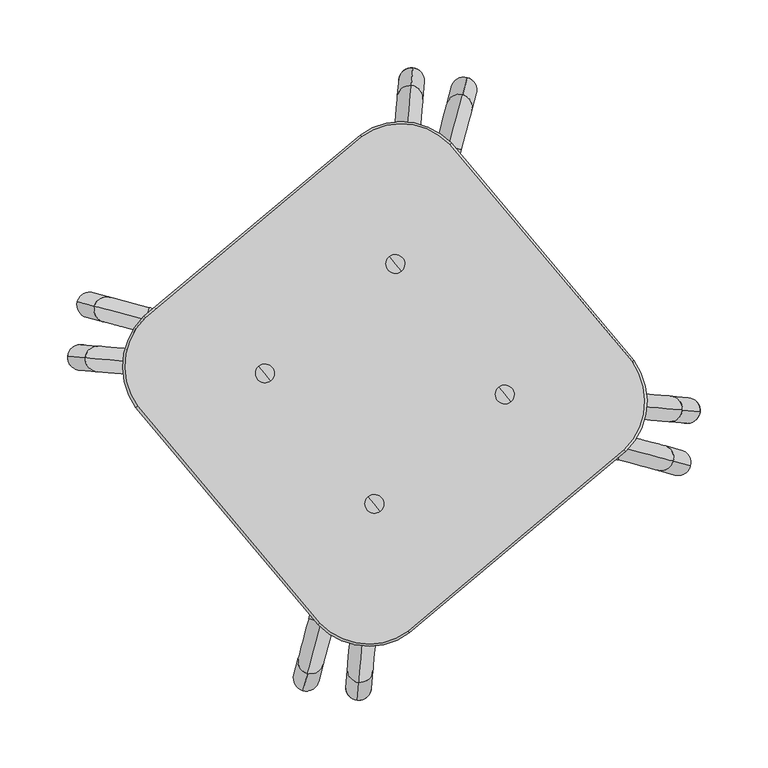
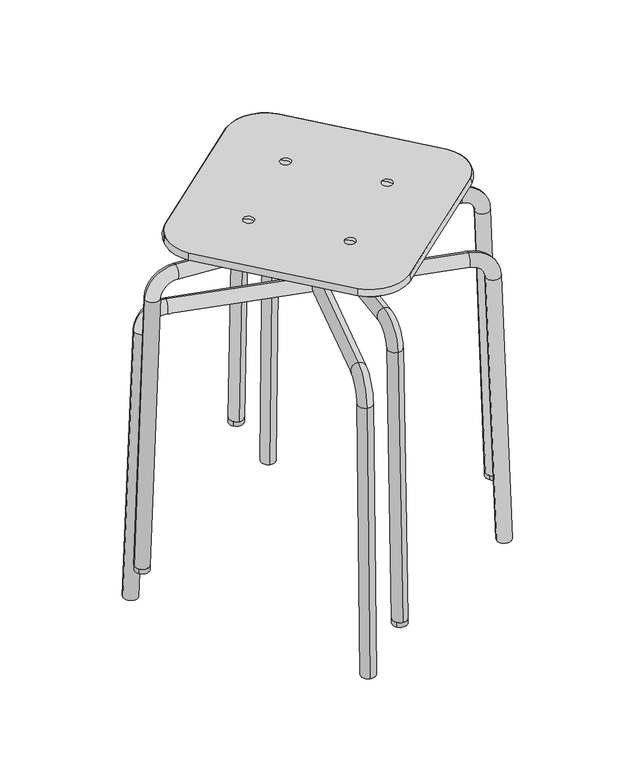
"""IFC4 building model written with IfcOpenShell, lengths in millimetres: furniture geometry, Grip NxT Stool 45 Stack : 45 Unupholstered."""

from ifc_helpers import new_model, si_unit, point, frame, frame_2d, origin, place, context, project, spatial, polyline, circle_curve, ellipse_curve, trimmed, segment, composite_curve, outline, extrude, source, transform, mapped, element, save
from ifc_brep_helpers import plane_surface, cylinder_surface, revolved_surface, advanced_brep


def furniture_99e5d853(model_context):
    return source(origin(), model_context, "Body", "SolidModel", [
        advanced_brep(
        [(232.8164369, -20.3687989, 286.7653221), (213.9002679, -18.7138486, 286.1022316), (219.7744448, -19.2277725, 661.66572), (200.8582758, -17.5728221, 661.0026295), (180.448725, -15.7872178, 699.7871899), (180.448725, -15.7872178, 680.7871899), (0.1851602, -0.0161994, 699.7871899), (0.1851602, -0.0161994, 680.7871899), (-181.8857231, 15.9129388, 699.7871899), (-181.8857231, 15.9129388, 680.7871899), (-221.2114429, 19.3534935, 661.66572), (-202.2952739, 17.6985432, 661.0026295), (-234.2517964, 20.4943766, 286.812426), (-215.3356273, 18.8394262, 286.1493355), (20.6167479, 233.5179172, 286.7653221), (18.9617976, 214.6017482, 286.1022316), (19.4757215, 220.4759251, 661.66572), (17.8207711, 201.5597561, 661.0026295), (16.0351668, 181.1502053, 699.7871899), (16.0351668, 181.1502053, 680.7871899), (-15.6649898, -181.1842428, 699.7871899), (-15.6649898, -181.1842428, 680.7871899), (-19.1055445, -220.5099626, 661.66572), (-17.4505941, -201.5937936, 661.0026295), (-20.2464276, -233.550316, 286.812426), (-18.5914772, -214.634147, 286.1493355)],
        [
            (0, 1, circle_curve(frame((223.3583524, -19.5413237, 286.4337769), z_axis=(0.034766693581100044, -0.0030416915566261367, -0.9993908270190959), x_axis=(-0.9955878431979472, 0.08710264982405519, -0.034899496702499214)), 9.5)),
            (1, 0, circle_curve(frame((223.3583524, -19.5413237, 286.4337769), z_axis=(0.034766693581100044, -0.0030416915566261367, -0.9993908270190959), x_axis=(-0.9955878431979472, 0.08710264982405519, -0.034899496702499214)), 9.5)),
            (0, 2),
            (2, 3, circle_curve(frame((210.3163603, -18.4002973, 661.3341748), z_axis=(0.034766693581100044, -0.0030416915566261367, -0.9993908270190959), x_axis=(-0.9955878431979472, 0.08710264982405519, -0.034899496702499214)), 9.5)),
            (3, 1),
            (3, 2, circle_curve(frame((210.3163603, -18.4002973, 661.3341748), z_axis=(0.034766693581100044, -0.0030416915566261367, -0.9993908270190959), x_axis=(-0.9955878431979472, 0.08710264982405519, -0.034899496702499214)), 9.5)),
            (2, 4, circle_curve(frame((180.448725, -15.7872178, 660.2871899), z_axis=(-0.08715574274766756, -0.9961946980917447, 0.0), x_axis=(0.9955878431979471, -0.08710264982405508, 0.03489949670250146)), 39.5)),
            (4, 5, circle_curve(frame((180.448725, -15.7872178, 690.2871899), z_axis=(0.9961946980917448, -0.08715574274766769, 0.0), x_axis=(0.0, 0.0, -1.0)), 9.5)),
            (5, 3, circle_curve(frame((180.448725, -15.7872178, 660.2871899), z_axis=(0.08715574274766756, 0.9961946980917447, 0.0), x_axis=(0.9955878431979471, -0.08710264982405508, 0.03489949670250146)), 20.5)),
            (5, 4, circle_curve(frame((180.448725, -15.7872178, 690.2871899), z_axis=(0.9961946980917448, -0.08715574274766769, 0.0), x_axis=(0.0, 0.0, -1.0)), 9.5)),
            (4, 6),
            (6, 7, ellipse_curve(frame((0.1851602, -0.0161994, 690.2871899), z_axis=(0.7660444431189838, 0.6427876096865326, 0.0), x_axis=(0.6427876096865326, -0.7660444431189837, 0.0)), 13.4350288, 9.5)),
            (7, 5),
            (8, 9, circle_curve(frame((-181.8857231, 15.9129388, 690.2871899), z_axis=(0.9961946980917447, -0.08715574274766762, 0.0), x_axis=(0.0, 0.0, -1.0)), 9.5)),
            (9, 7),
            (7, 6, ellipse_curve(frame((0.1851602, -0.0161994, 690.2871899), z_axis=(-0.6427876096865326, 0.7660444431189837, 0.0), x_axis=(0.7660444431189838, 0.6427876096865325, 0.0)), 13.4350288, 9.5)),
            (6, 8),
            (7, 6, ellipse_curve(frame((0.1851602, -0.0161994, 690.2871899), z_axis=(0.6427876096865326, -0.7660444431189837, 0.0), x_axis=(0.7660444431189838, 0.6427876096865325, 0.0)), 13.4350288, 9.5)),
            (9, 8, circle_curve(frame((-181.8857231, 15.9129388, 690.2871899), z_axis=(0.9961946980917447, -0.08715574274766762, 0.0), x_axis=(0.0, 0.0, -1.0)), 9.5)),
            (6, 7, ellipse_curve(frame((0.1851602, -0.0161994, 690.2871899), z_axis=(-0.7660444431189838, -0.6427876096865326, 0.0), x_axis=(0.6427876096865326, -0.7660444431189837, 0.0)), 13.4350288, 9.5)),
            (8, 10, circle_curve(frame((-181.8857231, 15.9129388, 660.2871899), z_axis=(-0.08715574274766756, -0.9961946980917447, 0.0), x_axis=(0.0, 0.0, 1.0)), 39.5)),
            (10, 11, circle_curve(frame((-211.7533584, 18.5260183, 661.3341748), z_axis=(0.034766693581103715, -0.003041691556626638, 0.9993908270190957), x_axis=(0.9955878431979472, -0.08710264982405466, -0.03489949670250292)), 9.5)),
            (11, 9, circle_curve(frame((-181.8857231, 15.9129388, 660.2871899), z_axis=(0.08715574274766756, 0.9961946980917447, 0.0), x_axis=(0.0, 0.0, 1.0)), 20.5)),
            (11, 10, circle_curve(frame((-211.7533584, 18.5260183, 661.3341748), z_axis=(0.03476669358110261, -0.0030416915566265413, 0.9993908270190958), x_axis=(0.9955878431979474, -0.08710264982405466, -0.03489949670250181)), 9.5)),
            (12, 13, circle_curve(frame((-224.7937118, 19.6669014, 286.4808807), z_axis=(-0.03476669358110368, 0.003041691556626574, -0.9993908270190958), x_axis=(0.9955878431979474, -0.08710264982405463, -0.03489949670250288)), 9.5)),
            (13, 12, circle_curve(frame((-224.7937118, 19.6669014, 286.4808807), z_axis=(-0.03476669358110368, 0.003041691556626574, -0.9993908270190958), x_axis=(0.9955878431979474, -0.08710264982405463, -0.03489949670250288)), 9.5)),
            (10, 12),
            (13, 11),
            (14, 15, circle_curve(frame((19.7892728, 224.0598327, 286.4337769), z_axis=(0.0030416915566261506, 0.03476669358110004, -0.9993908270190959), x_axis=(-0.0871026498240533, -0.9955878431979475, -0.03489949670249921)), 9.5)),
            (15, 14, circle_curve(frame((19.7892728, 224.0598327, 286.4337769), z_axis=(0.0030416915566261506, 0.03476669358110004, -0.9993908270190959), x_axis=(-0.0871026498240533, -0.9955878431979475, -0.03489949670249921)), 9.5)),
            (14, 16),
            (16, 17, circle_curve(frame((18.6482463, 211.0178406, 661.3341748), z_axis=(0.0030416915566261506, 0.03476669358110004, -0.9993908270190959), x_axis=(-0.0871026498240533, -0.9955878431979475, -0.03489949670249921)), 9.5)),
            (17, 15),
            (17, 16, circle_curve(frame((18.6482463, 211.0178406, 661.3341748), z_axis=(0.0030416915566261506, 0.03476669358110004, -0.9993908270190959), x_axis=(-0.0871026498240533, -0.9955878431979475, -0.03489949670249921)), 9.5)),
            (16, 18, circle_curve(frame((16.0351668, 181.1502053, 660.2871899), z_axis=(0.9961946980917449, -0.08715574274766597, 0.0), x_axis=(0.08710264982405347, 0.9955878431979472, 0.03489949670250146)), 39.5)),
            (18, 19, circle_curve(frame((16.0351668, 181.1502053, 690.2871899), z_axis=(0.0871557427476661, 0.9961946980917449, 0.0), x_axis=(0.0, 0.0, -1.0)), 9.5)),
            (19, 17, circle_curve(frame((16.0351668, 181.1502053, 660.2871899), z_axis=(-0.9961946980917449, 0.08715574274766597, 0.0), x_axis=(0.08710264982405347, 0.9955878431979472, 0.03489949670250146)), 20.5)),
            (19, 18, circle_curve(frame((16.0351668, 181.1502053, 690.2871899), z_axis=(0.0871557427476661, 0.9961946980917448, 0.0), x_axis=(0.0, 0.0, -1.0)), 9.5)),
            (18, 6),
            (7, 19),
            (20, 21, circle_curve(frame((-15.6649898, -181.1842428, 690.2871899), z_axis=(0.08715574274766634, 0.9961946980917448, 0.0), x_axis=(0.0, 0.0, -1.0)), 9.5)),
            (21, 7),
            (6, 20),
            (21, 20, circle_curve(frame((-15.6649898, -181.1842428, 690.2871899), z_axis=(0.08715574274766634, 0.9961946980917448, 0.0), x_axis=(0.0, 0.0, -1.0)), 9.5)),
            (20, 22, circle_curve(frame((-15.6649898, -181.1842428, 660.2871899), z_axis=(0.9961946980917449, -0.08715574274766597, 0.0), x_axis=(0.0, 0.0, 1.0)), 39.5)),
            (22, 23, circle_curve(frame((-18.2780693, -211.0518781, 661.3341748), z_axis=(0.0030416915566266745, 0.034766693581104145, 0.9993908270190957), x_axis=(0.08710264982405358, 0.9955878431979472, -0.03489949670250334)), 9.5)),
            (23, 21, circle_curve(frame((-15.6649898, -181.1842428, 660.2871899), z_axis=(-0.9961946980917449, 0.08715574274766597, 0.0), x_axis=(0.0, 0.0, 1.0)), 20.5)),
            (23, 22, circle_curve(frame((-18.2780693, -211.0518781, 661.3341748), z_axis=(0.003041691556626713, 0.03476669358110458, 0.9993908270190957), x_axis=(0.08710264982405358, 0.9955878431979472, -0.034899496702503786)), 9.5)),
            (24, 25, circle_curve(frame((-19.4189524, -224.0922315, 286.4808807), z_axis=(-0.0030416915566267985, -0.03476669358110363, -0.9993908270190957), x_axis=(0.08710264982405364, 0.9955878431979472, -0.03489949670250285)), 9.5)),
            (25, 24, circle_curve(frame((-19.4189524, -224.0922315, 286.4808807), z_axis=(-0.0030416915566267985, -0.03476669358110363, -0.9993908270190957), x_axis=(0.08710264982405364, 0.9955878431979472, -0.03489949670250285)), 9.5)),
            (22, 24),
            (25, 23),
        ],
        [
            plane_surface(frame((223.3583524, -19.5413237, 286.4337769), z_axis=(0.034766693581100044, -0.0030416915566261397, -0.999390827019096), x_axis=(-0.0871557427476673, -0.9961946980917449, 0.0))),
            cylinder_surface(frame((223.3583524, -19.5413237, 286.4337769), z_axis=(0.034766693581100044, -0.0030416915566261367, -0.9993908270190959), x_axis=(-0.9955878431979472, 0.08710264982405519, -0.034899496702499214)), 9.5),
            revolved_surface(trimmed(ellipse_curve(frame((210.3163603, -18.4002973, 661.3341748), z_axis=(0.03476669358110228, -0.0030416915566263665, -0.9993908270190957), x_axis=(-0.9955878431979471, 0.08710264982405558, -0.03489949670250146)), 9.5, 9.5), [point((219.7744448, -19.2277725, 661.66572))], [point((200.8582758, -17.5728221, 661.0026295))], True, "CARTESIAN"), (180.448725, -15.7872178, 660.2871899), (-0.08715574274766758, -0.9961946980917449, 0.0)),
            revolved_surface(trimmed(ellipse_curve(frame((210.3163603, -18.4002973, 661.3341748), z_axis=(0.03476669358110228, -0.0030416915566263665, -0.9993908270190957), x_axis=(-0.9955878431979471, 0.08710264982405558, -0.03489949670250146)), 9.5, 9.5), [point((200.8582758, -17.5728221, 661.0026295))], [point((219.7744448, -19.2277725, 661.66572))], True, "CARTESIAN"), (180.448725, -15.7872178, 660.2871899), (-0.08715574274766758, -0.9961946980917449, 0.0)),
            cylinder_surface(frame((180.448725, -15.7872178, 690.2871899), z_axis=(0.9961946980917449, -0.08715574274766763, 0.0), x_axis=(0.0, 0.0, -1.0)), 9.5),
            revolved_surface(trimmed(ellipse_curve(frame((-181.8857231, 15.9129388, 690.2871899), z_axis=(0.9961946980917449, -0.0871557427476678, 0.0), x_axis=(0.0, 0.0, -1.0)), 9.5, 9.5), [point((-181.8857231, 15.9129388, 699.7871899))], [point((-181.8857231, 15.9129388, 680.7871899))], True, "CARTESIAN"), (-181.8857231, 15.9129388, 660.2871899), (-0.08715574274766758, -0.9961946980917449, 0.0)),
            revolved_surface(trimmed(ellipse_curve(frame((-181.8857231, 15.9129388, 690.2871899), z_axis=(0.9961946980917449, -0.0871557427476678, 0.0), x_axis=(0.0, 0.0, -1.0)), 9.5, 9.5), [point((-181.8857231, 15.9129388, 680.7871899))], [point((-181.8857231, 15.9129388, 699.7871899))], True, "CARTESIAN"), (-181.8857231, 15.9129388, 660.2871899), (-0.08715574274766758, -0.9961946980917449, 0.0)),
            plane_surface(frame((-224.7937118, 19.6669014, 286.4808807), z_axis=(-0.0347666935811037, 0.003041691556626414, -0.9993908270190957), x_axis=(-0.08715574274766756, -0.9961946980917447, 0.0))),
            cylinder_surface(frame((-211.7533584, 18.5260183, 661.3341748), z_axis=(0.03476669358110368, -0.003041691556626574, 0.9993908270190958), x_axis=(0.9955878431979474, -0.08710264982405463, -0.03489949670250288)), 9.5),
            plane_surface(frame((19.7892728, 224.0598327, 286.4337769), z_axis=(0.003041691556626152, 0.03476669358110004, -0.999390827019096), x_axis=(0.996194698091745, -0.08715574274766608, 0.0))),
            cylinder_surface(frame((19.7892728, 224.0598327, 286.4337769), z_axis=(0.0030416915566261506, 0.03476669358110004, -0.9993908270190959), x_axis=(-0.0871026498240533, -0.9955878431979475, -0.03489949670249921)), 9.5),
            revolved_surface(trimmed(ellipse_curve(frame((18.6482463, 211.0178406, 661.3341748), z_axis=(0.0030416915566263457, 0.03476669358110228, -0.9993908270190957), x_axis=(-0.0871026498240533, -0.9955878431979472, -0.034899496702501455)), 9.5, 9.5), [point((19.4757215, 220.4759251, 661.66572))], [point((17.8207711, 201.5597561, 661.0026295))], True, "CARTESIAN"), (16.0351668, 181.1502053, 660.2871899), (0.9961946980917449, -0.08715574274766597, 0.0)),
            revolved_surface(trimmed(ellipse_curve(frame((18.6482463, 211.0178406, 661.3341748), z_axis=(0.0030416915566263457, 0.03476669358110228, -0.9993908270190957), x_axis=(-0.0871026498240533, -0.9955878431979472, -0.034899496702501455)), 9.5, 9.5), [point((17.8207711, 201.5597561, 661.0026295))], [point((19.4757215, 220.4759251, 661.66572))], True, "CARTESIAN"), (16.0351668, 181.1502053, 660.2871899), (0.9961946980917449, -0.08715574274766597, 0.0)),
            cylinder_surface(frame((16.0351668, 181.1502053, 690.2871899), z_axis=(0.08715574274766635, 0.996194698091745, 0.0), x_axis=(0.0, 0.0, -1.0)), 9.5),
            revolved_surface(trimmed(ellipse_curve(frame((-15.6649898, -181.1842428, 690.2871899), z_axis=(0.08715574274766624, 0.9961946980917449, 0.0), x_axis=(0.0, 0.0, -1.0)), 9.5, 9.5), [point((-15.6649898, -181.1842428, 699.7871899))], [point((-15.6649898, -181.1842428, 680.7871899))], True, "CARTESIAN"), (-15.6649898, -181.1842428, 660.2871899), (0.9961946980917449, -0.08715574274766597, 0.0)),
            revolved_surface(trimmed(ellipse_curve(frame((-15.6649898, -181.1842428, 690.2871899), z_axis=(0.08715574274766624, 0.9961946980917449, 0.0), x_axis=(0.0, 0.0, -1.0)), 9.5, 9.5), [point((-15.6649898, -181.1842428, 680.7871899))], [point((-15.6649898, -181.1842428, 699.7871899))], True, "CARTESIAN"), (-15.6649898, -181.1842428, 660.2871899), (0.9961946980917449, -0.08715574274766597, 0.0)),
            plane_surface(frame((-19.4189524, -224.0922315, 286.4808807), z_axis=(-0.003041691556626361, -0.034766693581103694, -0.9993908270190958), x_axis=(0.996194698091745, -0.08715574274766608, 0.0))),
            cylinder_surface(frame((-18.2780693, -211.0518781, 661.3341748), z_axis=(0.0030416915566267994, 0.03476669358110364, 0.9993908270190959), x_axis=(0.08710264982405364, 0.9955878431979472, -0.03489949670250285)), 9.5),
        ],
        [
            (0, [[1, 2]]),
            (1, [[-1, 3, 4, 5]]),
            (1, [[-2, -5, 6, -3]]),
            (2, [[-4, 7, 8, 9]]),
            (3, [[-6, -9, 10, -7]]),
            (4, [[-8, 11, 12, 13]]),
            (4, [[14, 15, 16, 17]]),
            (4, [[-10, -13, 18, -11]]),
            (4, [[19, -17, 20, -15]]),
            (5, [[-14, 21, 22, 23]]),
            (6, [[-19, -23, 24, -21]]),
            (7, [[25, 26]]),
            (8, [[-22, 27, -26, 28]]),
            (8, [[-24, -28, -25, -27]]),
            (9, [[29, 30]]),
            (10, [[-29, 31, 32, 33]]),
            (10, [[-30, -33, 34, -31]]),
            (11, [[-32, 35, 36, 37]]),
            (12, [[-34, -37, 38, -35]]),
            (13, [[-36, 39, -18, 40]]),
            (13, [[41, 42, -12, 43]]),
            (13, [[-38, -40, -20, -39]]),
            (13, [[44, -43, -16, -42]]),
            (14, [[-41, 45, 46, 47]]),
            (15, [[-44, -47, 48, -45]]),
            (16, [[49, 50]]),
            (17, [[-46, 51, -50, 52]]),
            (17, [[-48, -52, -49, -51]]),
        ],
    ),
        extrude(outline(composite_curve([segment(trimmed(circle_curve(frame_2d((-7.6459239, -88.654369)), 9.0), [point((-14.5403239, -94.4394575))], [point((-0.7515239, -82.8692806))], False, "CARTESIAN"), True, "CONTINUOUS"), segment(trimmed(circle_curve(frame_2d((-7.6459239, -88.654369)), 9.0), [point((-0.7515239, -82.8692806))], [point((-14.5403239, -94.4394575))], False, "CARTESIAN"), True, "CONTINUOUS")], self_intersect=False)), frame((0.0, 0.0, 668.5318909), z_axis=(0.0, 0.0, 1.0), x_axis=(1.0, 0.0, 0.0)), (0.0, 0.0, 1.0), 56.7956238),
        extrude(outline(composite_curve([segment(trimmed(circle_curve(frame_2d((-88.6049039, 7.7380332)), 9.0), [point((-95.4993039, 1.9529447))], [point((-81.7105039, 13.5231216))], False, "CARTESIAN"), True, "CONTINUOUS"), segment(trimmed(circle_curve(frame_2d((-88.6049039, 7.7380332)), 9.0), [point((-81.7105039, 13.5231216))], [point((-95.4993039, 1.9529447))], False, "CARTESIAN"), True, "CONTINUOUS")], self_intersect=False)), frame((0.0, 0.0, 668.5318909), z_axis=(0.0, 0.0, 1.0), x_axis=(1.0, 0.0, 0.0)), (0.0, 0.0, 1.0), 56.7956238),
        extrude(outline(composite_curve([segment(trimmed(circle_curve(frame_2d((8.0070063, 88.4978532)), 9.0), [point((14.9014063, 94.2829417))], [point((1.1126063, 82.7127647))], False, "CARTESIAN"), True, "CONTINUOUS"), segment(trimmed(circle_curve(frame_2d((8.0070063, 88.4978532)), 9.0), [point((1.1126063, 82.7127647))], [point((14.9014063, 94.2829417))], False, "CARTESIAN"), True, "CONTINUOUS")], self_intersect=False)), frame((0.0, 0.0, 668.5318909), z_axis=(0.0, 0.0, 1.0), x_axis=(1.0, 0.0, 0.0)), (0.0, 0.0, 1.0), 56.7956238),
        extrude(outline(composite_curve([segment(trimmed(circle_curve(frame_2d((88.6352107, -7.8649045)), 9.0), [point((95.5296107, -2.079816))], [point((81.7408107, -13.649993))], False, "CARTESIAN"), True, "CONTINUOUS"), segment(trimmed(circle_curve(frame_2d((88.6352107, -7.8649045)), 9.0), [point((81.7408107, -13.649993))], [point((95.5296107, -2.079816))], False, "CARTESIAN"), True, "CONTINUOUS")], self_intersect=False)), frame((0.0, 0.0, 668.5318909), z_axis=(0.0, 0.0, 1.0), x_axis=(1.0, 0.0, 0.0)), (0.0, 0.0, 1.0), 56.7956238),
        extrude(outline(composite_curve([segment(trimmed(circle_curve(frame_2d((-19.4128109, -224.0804734)), 9.5), [point((-26.6902331, -230.1869557))], [point((-12.1353887, -217.9739911))], False, "CARTESIAN"), True, "CONTINUOUS"), segment(trimmed(circle_curve(frame_2d((-19.4128109, -224.0804734)), 9.5), [point((-12.1353887, -217.9739911))], [point((-26.6902331, -230.1869557))], False, "CARTESIAN"), True, "CONTINUOUS")], self_intersect=False)), frame((0.0, 0.0, 280.0), z_axis=(0.0, 0.0, 1.0), x_axis=(1.0, 0.0, 0.0)), (0.0, 0.0, 1.0), 7.0),
        extrude(outline(composite_curve([segment(trimmed(circle_curve(frame_2d((-224.7029994, 19.6653957)), 9.5), [point((-231.9804217, 13.5589134))], [point((-217.4255772, 25.771878))], False, "CARTESIAN"), True, "CONTINUOUS"), segment(trimmed(circle_curve(frame_2d((-224.7029994, 19.6653957)), 9.5), [point((-217.4255772, 25.771878))], [point((-231.9804217, 13.5589134))], False, "CARTESIAN"), True, "CONTINUOUS")], self_intersect=False)), frame((0.0, 0.0, 280.0), z_axis=(0.0, 0.0, 1.0), x_axis=(1.0, 0.0, 0.0)), (0.0, 0.0, 1.0), 7.0),
        extrude(outline(composite_curve([segment(trimmed(circle_curve(frame_2d((19.7589199, 224.1019649)), 9.5325021), [point((12.4565996, 217.9745906))], [point((27.0612402, 230.2293392))], False, "CARTESIAN"), True, "CONTINUOUS"), segment(trimmed(circle_curve(frame_2d((19.7589199, 224.1019649)), 9.5325021), [point((27.0612402, 230.2293392))], [point((12.4565996, 217.9745906))], False, "CARTESIAN"), True, "CONTINUOUS")], self_intersect=False)), frame((0.0, 0.0, 280.0), z_axis=(0.0, 0.0, 1.0), x_axis=(1.0, 0.0, 0.0)), (0.0, 0.0, 1.0), 7.0),
        extrude(outline(composite_curve([segment(trimmed(circle_curve(frame_2d((223.3743219, -19.5515336)), 9.5), [point((216.0968997, -25.6580159))], [point((230.6517442, -13.4450513))], False, "CARTESIAN"), True, "CONTINUOUS"), segment(trimmed(circle_curve(frame_2d((223.3743219, -19.5515336)), 9.5), [point((230.6517442, -13.4450513))], [point((216.0968997, -25.6580159))], False, "CARTESIAN"), True, "CONTINUOUS")], self_intersect=False)), frame((0.0, 0.0, 280.0), z_axis=(0.0, 0.0, 1.0), x_axis=(1.0, 0.0, 0.0)), (0.0, 0.0, 1.0), 7.0),
        advanced_brep(
        [(12.1933616, 83.268511, 735.3895874), (3.2627666, 93.9115796, 735.3895874), (7.7280641, 88.5900453, 735.3895874), (7.7280641, 88.5900453, 736.5699158)],
        [
            (0, 1, circle_curve(frame((7.7280641, 88.5900453, 735.3895874), z_axis=(0.0, 0.0, -1.0), x_axis=(-0.6427876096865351, 0.7660444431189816, 0.0)), 6.9467697)),
            (1, 2),
            (2, 0),
            (1, 0, circle_curve(frame((7.7280641, 88.5900453, 735.3895874), z_axis=(0.0, 0.0, -1.0), x_axis=(-0.6427876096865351, 0.7660444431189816, 0.0)), 6.9467697)),
            (3, 1, circle_curve(frame((7.5821185, 88.7639765, 716.8735995), z_axis=(-0.7660444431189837, -0.6427876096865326, 0.0), x_axis=(-0.6427876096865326, 0.7660444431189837, 0.0)), 19.6976249)),
            (0, 3, circle_curve(frame((7.8740097, 88.4161141, 716.8735995), z_axis=(-0.7660444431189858, -0.6427876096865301, 0.0), x_axis=(0.6427876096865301, -0.7660444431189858, 0.0)), 19.6976249)),
        ],
        [
            plane_surface(frame((7.7280641, 88.5900453, 735.3895874), z_axis=(0.0, 0.0, -1.0), x_axis=(-0.6427876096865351, 0.7660444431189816, 0.0))),
            revolved_surface(trimmed(ellipse_curve(frame((7.5821185, 88.7639765, 716.8735995), z_axis=(0.7660444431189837, 0.6427876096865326, 0.0), x_axis=(-0.6427876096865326, 0.7660444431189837, 0.0)), 19.6976249, 19.6976249), [point((3.2627666, 93.9115796, 735.3895874))], [point((7.7280641, 88.5900453, 736.5699158))], True, "CARTESIAN"), (7.7280641, 88.5900453, 736.2266692), (0.0, 0.0, 1.0)),
        ],
        [
            (0, [[1, 2, 3]]),
            (0, [[4, -3, -2]]),
            (1, [[5, -1, 6]]),
            (1, [[-6, -4, -5]]),
        ],
    ),
        advanced_brep(
        [(88.5861277, -7.7728425, 735.3895874), (93.0514252, -13.0943768, 735.3895874), (84.1208302, -2.4513082, 735.3895874), (88.5861277, -7.7728425, 736.5699158)],
        [
            (0, 1),
            (1, 2, circle_curve(frame((88.5861277, -7.7728425, 735.3895874), z_axis=(0.0, 0.0, -1.0), x_axis=(0.6427876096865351, -0.7660444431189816, 0.0)), 6.9467697)),
            (2, 0),
            (2, 1, circle_curve(frame((88.5861277, -7.7728425, 735.3895874), z_axis=(0.0, 0.0, -1.0), x_axis=(0.6427876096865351, -0.7660444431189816, 0.0)), 6.9467697)),
            (1, 3, circle_curve(frame((88.7320733, -7.9467737, 716.8735995), z_axis=(-0.7660444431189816, -0.6427876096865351, 0.0), x_axis=(0.6427876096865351, -0.7660444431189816, 0.0)), 19.6976249)),
            (3, 2, circle_curve(frame((88.4401821, -7.5989113, 716.8735995), z_axis=(-0.7660444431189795, -0.6427876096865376, 0.0), x_axis=(-0.6427876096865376, 0.7660444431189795, 0.0)), 19.6976249)),
        ],
        [
            plane_surface(frame((88.5861277, -7.7728425, 735.3895874), z_axis=(0.0, 0.0, -1.0), x_axis=(0.6427876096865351, -0.7660444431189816, 0.0))),
            revolved_surface(trimmed(ellipse_curve(frame((88.7320733, -7.9467737, 716.8735995), z_axis=(0.7660444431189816, 0.6427876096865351, 0.0), x_axis=(0.6427876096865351, -0.7660444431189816, 0.0)), 19.6976249, 19.6976249), [point((88.5861277, -7.7728425, 736.5699158))], [point((93.0514252, -13.0943768, 735.3895874))], True, "CARTESIAN"), (88.5861277, -7.7728425, 736.2266692), (0.0, 0.0, -1.0)),
        ],
        [
            (0, [[1, 2, 3]]),
            (0, [[-3, 4, -1]]),
            (1, [[-2, 5, 6]]),
            (1, [[-4, -6, -5]]),
        ],
    ),
        advanced_brep(
        [(-88.5861277, 7.7728425, 735.3895874), (-93.0514252, 13.0943768, 735.3895874), (-84.1208302, 2.4513082, 735.3895874), (-88.5861277, 7.7728425, 736.5699158)],
        [
            (0, 1),
            (1, 2, circle_curve(frame((-88.5861277, 7.7728425, 735.3895874), z_axis=(0.0, 0.0, -1.0), x_axis=(-0.6427876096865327, 0.7660444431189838, 0.0)), 6.9467697)),
            (2, 0),
            (2, 1, circle_curve(frame((-88.5861277, 7.7728425, 735.3895874), z_axis=(0.0, 0.0, -1.0), x_axis=(-0.6427876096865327, 0.7660444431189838, 0.0)), 6.9467697)),
            (1, 3, circle_curve(frame((-88.7320733, 7.9467737, 716.8735995), z_axis=(0.7660444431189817, 0.6427876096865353, 0.0), x_axis=(-0.6427876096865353, 0.7660444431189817, 0.0)), 19.6976249)),
            (3, 2, circle_curve(frame((-88.4401821, 7.5989113, 716.8735995), z_axis=(0.7660444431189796, 0.6427876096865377, 0.0), x_axis=(0.6427876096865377, -0.7660444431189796, 0.0)), 19.6976249)),
        ],
        [
            plane_surface(frame((-88.5861277, 7.7728425, 735.3895874), z_axis=(0.0, 0.0, -0.9999999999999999), x_axis=(-0.6427876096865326, 0.7660444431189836, 0.0))),
            revolved_surface(trimmed(ellipse_curve(frame((-88.7320733, 7.9467737, 716.8735995), z_axis=(-0.7660444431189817, -0.6427876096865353, 0.0), x_axis=(-0.6427876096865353, 0.7660444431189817, 0.0)), 19.6976249, 19.6976249), [point((-88.5861277, 7.7728425, 736.5699158))], [point((-93.0514252, 13.0943768, 735.3895874))], True, "CARTESIAN"), (-88.5861277, 7.7728425, 736.2266692), (0.0, 0.0, -1.0)),
        ],
        [
            (0, [[1, 2, 3]]),
            (0, [[-3, 4, -1]]),
            (1, [[-2, 5, 6]]),
            (1, [[-4, -6, -5]]),
        ],
    ),
        advanced_brep(
        [(-12.1933616, -83.268511, 735.3895874), (-3.2627666, -93.9115796, 735.3895874), (-7.7280641, -88.5900453, 735.3895874), (-7.7280641, -88.5900453, 736.5699158)],
        [
            (0, 1, circle_curve(frame((-7.7280641, -88.5900453, 735.3895874), z_axis=(0.0, 0.0, -1.0), x_axis=(0.6427876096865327, -0.7660444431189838, 0.0)), 6.9467697)),
            (1, 2),
            (2, 0),
            (1, 0, circle_curve(frame((-7.7280641, -88.5900453, 735.3895874), z_axis=(0.0, 0.0, -1.0), x_axis=(0.6427876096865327, -0.7660444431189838, 0.0)), 6.9467697)),
            (3, 1, circle_curve(frame((-7.5821185, -88.7639765, 716.8735995), z_axis=(0.7660444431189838, 0.6427876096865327, 0.0), x_axis=(0.6427876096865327, -0.7660444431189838, 0.0)), 19.6976249)),
            (0, 3, circle_curve(frame((-7.8740097, -88.4161141, 716.8735995), z_axis=(0.7660444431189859, 0.6427876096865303, 0.0), x_axis=(-0.6427876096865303, 0.7660444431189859, 0.0)), 19.6976249)),
        ],
        [
            plane_surface(frame((-7.7280641, -88.5900453, 735.3895874), z_axis=(0.0, 0.0, -0.9999999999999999), x_axis=(0.6427876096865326, -0.7660444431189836, 0.0))),
            revolved_surface(trimmed(ellipse_curve(frame((-7.5821185, -88.7639765, 716.8735995), z_axis=(-0.7660444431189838, -0.6427876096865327, 0.0), x_axis=(0.6427876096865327, -0.7660444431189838, 0.0)), 19.6976249, 19.6976249), [point((-3.2627666, -93.9115796, 735.3895874))], [point((-7.7280641, -88.5900453, 736.5699158))], True, "CARTESIAN"), (-7.7280641, -88.5900453, 736.2266692), (0.0, 0.0, 1.0)),
        ],
        [
            (0, [[1, 2, 3]]),
            (0, [[4, -3, -2]]),
            (1, [[5, -1, 6]]),
            (1, [[-6, -4, -5]]),
        ],
    ),
        advanced_brep(
        [(-48.0521148, -176.9240812, 735.4041136), (17.3176253, -182.6318131, 735.4041136), (17.3176253, -182.6318131, 725.4041138), (-48.0521148, -176.9240812, 725.4041138), (-182.580369, -16.5995509, 735.4041136), (-182.580369, -16.5995509, 725.4041138), (-176.8500514, 48.7682132, 735.4041136), (-176.8500514, 48.7682132, 725.4041138), (-17.3176253, 182.6318131, 735.4041136), (-17.3176253, 182.6318131, 725.4041138), (48.0521148, 176.9240812, 735.4041136), (48.0521148, 176.9240812, 725.4041138), (182.580369, 16.5995509, 735.4041136), (182.580369, 16.5995509, 725.4041138), (176.8500514, -48.7682132, 735.4041136), (176.8500514, -48.7682132, 725.4041138)],
        [
            (0, 1, circle_curve(frame((-12.0853498, -142.1909296, 735.4041136), z_axis=(0.0, 0.0, 1.0), x_axis=(0.5880595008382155, -0.8088176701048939, 0.0)), 50.0)),
            (1, 2),
            (2, 3, circle_curve(frame((-12.0853498, -142.1909296, 725.4041138), z_axis=(0.0, 0.0, -1.0), x_axis=(0.5880595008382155, -0.8088176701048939, 0.0)), 50.0)),
            (3, 0),
            (4, 0, circle_curve(frame((1030.9508348, 865.0704653, 735.4041136), z_axis=(0.0, 0.0, 1.0), x_axis=(-0.7193352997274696, -0.6946630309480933, 0.0)), 1500.0)),
            (3, 5, circle_curve(frame((1030.9508348, 865.0704653, 725.4041138), z_axis=(0.0, 0.0, -1.0), x_axis=(-0.7193352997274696, -0.6946630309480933, 0.0)), 1500.0)),
            (5, 4),
            (6, 4, circle_curve(frame((-142.1293288, 12.7894497, 735.4041136), z_axis=(0.0, 0.0, 1.0), x_axis=(-0.8090208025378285, -0.5877800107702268, 0.0)), 50.0)),
            (5, 7, circle_curve(frame((-142.1293288, 12.7894497, 725.4041138), z_axis=(0.0, 0.0, -1.0), x_axis=(-0.8090208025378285, -0.5877800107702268, 0.0)), 50.0)),
            (7, 6),
            (8, 6, circle_curve(frame((864.771626, -1030.594692, 735.4041136), z_axis=(0.0, 0.0, 1.0), x_axis=(-0.6944144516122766, 0.7195752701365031, 0.0)), 1500.0)),
            (7, 9, circle_curve(frame((864.771626, -1030.594692, 725.4041138), z_axis=(0.0, 0.0, -1.0), x_axis=(-0.6944144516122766, 0.7195752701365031, 0.0)), 1500.0)),
            (9, 8),
            (10, 8, circle_curve(frame((12.0853498, 142.1909296, 735.4041136), z_axis=(0.0, 0.0, 1.0), x_axis=(-0.5880595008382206, 0.8088176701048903, 0.0)), 50.0)),
            (9, 11, circle_curve(frame((12.0853498, 142.1909296, 725.4041138), z_axis=(0.0, 0.0, -1.0), x_axis=(-0.5880595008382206, 0.8088176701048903, 0.0)), 50.0)),
            (11, 10),
            (12, 10, circle_curve(frame((-1030.9508348, -865.0704653, 735.4041136), z_axis=(0.0, 0.0, 1.0), x_axis=(0.7193352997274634, 0.6946630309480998, 0.0)), 1500.0)),
            (11, 13, circle_curve(frame((-1030.9508348, -865.0704653, 725.4041138), z_axis=(0.0, 0.0, -1.0), x_axis=(0.7193352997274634, 0.6946630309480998, 0.0)), 1500.0)),
            (13, 12),
            (14, 12, circle_curve(frame((142.1293288, -12.7894497, 735.4041136), z_axis=(0.0, 0.0, 1.0), x_axis=(0.8090208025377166, 0.5877800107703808, 0.0)), 50.0)),
            (13, 15, circle_curve(frame((142.1293288, -12.7894497, 725.4041138), z_axis=(0.0, 0.0, -1.0), x_axis=(0.8090208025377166, 0.5877800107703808, 0.0)), 50.0)),
            (15, 14),
            (1, 14, circle_curve(frame((-864.771626, 1030.594692, 735.4041136), z_axis=(0.0, 0.0, 1.0), x_axis=(0.6944144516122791, -0.7195752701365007, 0.0)), 1500.0)),
            (15, 2, circle_curve(frame((-864.771626, 1030.594692, 725.4041138), z_axis=(0.0, 0.0, -1.0), x_axis=(0.6944144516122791, -0.7195752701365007, 0.0)), 1500.0)),
            (2, 1, circle_curve(frame((12.9169909, -176.5791758, 730.4041137), z_axis=(-0.8088176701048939, -0.5880595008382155, 0.0), x_axis=(0.5880595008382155, -0.8088176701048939, 0.0)), 9.0)),
            (0, 3, circle_curve(frame((-42.6691022, -171.725699, 730.4041137), z_axis=(0.6946630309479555, -0.7193352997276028, 0.0), x_axis=(-0.7193352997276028, -0.6946630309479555, 0.0)), 9.0)),
            (4, 5, circle_curve(frame((-176.5262116, -12.201008, 730.4041137), z_axis=(0.5877800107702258, -0.8090208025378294, 0.0), x_axis=(-0.8090208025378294, -0.5877800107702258, 0.0)), 9.0)),
            (6, 7, circle_curve(frame((-171.6535295, 43.3834049, 730.4041137), z_axis=(-0.7195752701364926, -0.6944144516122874, 0.0), x_axis=(-0.6944144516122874, 0.7195752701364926, 0.0)), 9.0)),
            (8, 9, circle_curve(frame((-12.9169909, 176.5791758, 730.4041137), z_axis=(-0.8088176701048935, -0.588059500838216, 0.0), x_axis=(-0.588059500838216, 0.8088176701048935, 0.0)), 9.0)),
            (10, 11, circle_curve(frame((42.6691022, 171.725699, 730.4041137), z_axis=(-0.6946630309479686, 0.7193352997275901, 0.0), x_axis=(0.7193352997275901, 0.6946630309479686, 0.0)), 9.0)),
            (12, 13, circle_curve(frame((176.5262116, 12.201008, 730.4041137), z_axis=(-0.5877800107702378, 0.8090208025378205, 0.0), x_axis=(0.8090208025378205, 0.5877800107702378, 0.0)), 9.0)),
            (14, 15, circle_curve(frame((171.6535295, -43.3834049, 730.4041137), z_axis=(0.7195752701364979, 0.6944144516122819, 0.0), x_axis=(0.6944144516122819, -0.7195752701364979, 0.0)), 9.0)),
        ],
        [
            revolved_surface(polyline([(17.317625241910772, -182.6318131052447, 725.4041138), (17.317625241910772, -182.6318131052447, 735.4041136)]), (-12.0853498, -142.1909296, 735.4041136), (0.0, 0.0, -1.0)),
            revolved_surface(polyline([(-48.0521147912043, -176.92408112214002, 725.4041138), (-48.0521147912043, -176.92408112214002, 735.4041136)]), (1030.9508348, 865.0704653, 735.4041136), (0.0, 0.0, -1.0)),
            revolved_surface(polyline([(-182.58036892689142, -16.59955083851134, 725.4041138), (-182.58036892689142, -16.59955083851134, 735.4041136)]), (-142.1293288, 12.7894497, 735.4041136), (0.0, 0.0, -1.0)),
            revolved_surface(polyline([(-176.85005141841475, 48.76821320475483, 725.4041138), (-176.85005141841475, 48.76821320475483, 735.4041136)]), (864.771626, -1030.594692, 735.4041136), (0.0, 0.0, -1.0)),
            revolved_surface(polyline([(-17.317625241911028, 182.63181310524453, 725.4041138), (-17.317625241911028, 182.63181310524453, 735.4041136)]), (12.0853498, 142.1909296, 735.4041136), (0.0, 0.0, -1.0)),
            revolved_surface(polyline([(48.05211479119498, 176.92408112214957, 725.4041138), (48.05211479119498, 176.92408112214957, 735.4041136)]), (-1030.9508348, -865.0704653, 735.4041136), (0.0, 0.0, -1.0)),
            revolved_surface(polyline([(182.58036892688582, 16.599550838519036, 725.4041138), (182.58036892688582, 16.599550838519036, 735.4041136)]), (142.1293288, -12.7894497, 735.4041136), (0.0, 0.0, -1.0)),
            revolved_surface(polyline([(176.85005141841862, -48.76821320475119, 725.4041138), (176.85005141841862, -48.76821320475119, 735.4041136)]), (-864.771626, 1030.594692, 735.4041136), (0.0, 0.0, -1.0)),
            revolved_surface(trimmed(ellipse_curve(frame((12.9169909, -176.5791758, 730.4041137), z_axis=(0.8088176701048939, 0.5880595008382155, 0.0), x_axis=(0.5880595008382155, -0.8088176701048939, 0.0)), 9.0, 9.0), [point((17.3176253, -182.6318131, 735.4041136))], [point((17.3176253, -182.6318131, 725.4041138))], True, "CARTESIAN"), (-12.0853498, -142.1909296, 735.4041136), (0.0, 0.0, -1.0)),
            revolved_surface(trimmed(ellipse_curve(frame((-42.6691022, -171.725699, 730.4041137), z_axis=(0.6946630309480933, -0.7193352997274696, 0.0), x_axis=(-0.7193352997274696, -0.6946630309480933, 0.0)), 9.0, 9.0), [point((-48.0521148, -176.9240812, 735.4041136))], [point((-48.0521148, -176.9240812, 725.4041138))], True, "CARTESIAN"), (1030.9508348, 865.0704653, 735.4041136), (0.0, 0.0, -1.0)),
            revolved_surface(trimmed(ellipse_curve(frame((-176.5262116, -12.201008, 730.4041137), z_axis=(0.5877800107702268, -0.8090208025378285, 0.0), x_axis=(-0.8090208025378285, -0.5877800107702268, 0.0)), 9.0, 9.0), [point((-182.580369, -16.5995509, 735.4041136))], [point((-182.580369, -16.5995509, 725.4041138))], True, "CARTESIAN"), (-142.1293288, 12.7894497, 735.4041136), (0.0, 0.0, -1.0)),
            revolved_surface(trimmed(ellipse_curve(frame((-171.6535295, 43.3834049, 730.4041137), z_axis=(-0.7195752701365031, -0.6944144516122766, 0.0), x_axis=(-0.6944144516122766, 0.7195752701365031, 0.0)), 9.0, 9.0), [point((-176.8500514, 48.7682132, 735.4041136))], [point((-176.8500514, 48.7682132, 725.4041138))], True, "CARTESIAN"), (864.771626, -1030.594692, 735.4041136), (0.0, 0.0, -1.0)),
            revolved_surface(trimmed(ellipse_curve(frame((-12.9169909, 176.5791758, 730.4041137), z_axis=(-0.8088176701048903, -0.5880595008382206, 0.0), x_axis=(-0.5880595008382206, 0.8088176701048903, 0.0)), 9.0, 9.0), [point((-17.3176253, 182.6318131, 735.4041136))], [point((-17.3176253, 182.6318131, 725.4041138))], True, "CARTESIAN"), (12.0853498, 142.1909296, 735.4041136), (0.0, 0.0, -1.0)),
            revolved_surface(trimmed(ellipse_curve(frame((42.6691022, 171.725699, 730.4041137), z_axis=(-0.6946630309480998, 0.7193352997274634, 0.0), x_axis=(0.7193352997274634, 0.6946630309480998, 0.0)), 9.0, 9.0), [point((48.0521148, 176.9240812, 735.4041136))], [point((48.0521148, 176.9240812, 725.4041138))], True, "CARTESIAN"), (-1030.9508348, -865.0704653, 735.4041136), (0.0, 0.0, -1.0)),
            revolved_surface(trimmed(ellipse_curve(frame((176.5262116, 12.201008, 730.4041137), z_axis=(-0.5877800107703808, 0.8090208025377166, 0.0), x_axis=(0.8090208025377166, 0.5877800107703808, 0.0)), 9.0, 9.0), [point((182.580369, 16.5995509, 735.4041136))], [point((182.580369, 16.5995509, 725.4041138))], True, "CARTESIAN"), (142.1293288, -12.7894497, 735.4041136), (0.0, 0.0, -1.0)),
            revolved_surface(trimmed(ellipse_curve(frame((171.6535295, -43.3834049, 730.4041137), z_axis=(0.7195752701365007, 0.6944144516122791, 0.0), x_axis=(0.6944144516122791, -0.7195752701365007, 0.0)), 9.0, 9.0), [point((176.8500514, -48.7682132, 735.4041136))], [point((176.8500514, -48.7682132, 725.4041138))], True, "CARTESIAN"), (-864.771626, 1030.594692, 735.4041136), (0.0, 0.0, -1.0)),
        ],
        [
            (0, [[1, 2, 3, 4]]),
            (1, [[5, -4, 6, 7]]),
            (2, [[8, -7, 9, 10]]),
            (3, [[11, -10, 12, 13]]),
            (4, [[14, -13, 15, 16]]),
            (5, [[17, -16, 18, 19]]),
            (6, [[20, -19, 21, 22]]),
            (7, [[23, -22, 24, -2]]),
            (8, [[-3, 25, -1, 26]]),
            (9, [[-6, -26, -5, 27]]),
            (10, [[-9, -27, -8, 28]]),
            (11, [[-12, -28, -11, 29]]),
            (12, [[-15, -29, -14, 30]]),
            (13, [[-18, -30, -17, 31]]),
            (14, [[-21, -31, -20, 32]]),
            (15, [[-24, -32, -23, -25]]),
        ],
    ),
        extrude(outline(composite_curve([segment(trimmed(circle_curve(frame_2d((12.0853498, 142.1909296)), 50.0), [point((-17.3176253, 182.6318131))], [point((48.0521148, 176.9240812))], False, "CARTESIAN"), True, "CONTINUOUS"), segment(trimmed(circle_curve(frame_2d((-1030.9508348, -865.0704653)), 1500.0), [point((48.0521148, 176.9240812))], [point((182.580369, 16.5995509))], False, "CARTESIAN"), True, "CONTINUOUS"), segment(trimmed(circle_curve(frame_2d((142.1293288, -12.7894497)), 50.0), [point((182.580369, 16.5995509))], [point((176.8500514, -48.7682132))], False, "CARTESIAN"), True, "CONTINUOUS"), segment(trimmed(circle_curve(frame_2d((-864.771626, 1030.594692)), 1500.0), [point((176.8500514, -48.7682132))], [point((17.3176253, -182.6318131))], False, "CARTESIAN"), True, "CONTINUOUS"), segment(trimmed(circle_curve(frame_2d((-12.0853498, -142.1909296)), 50.0), [point((17.3176253, -182.6318131))], [point((-48.0521148, -176.9240812))], False, "CARTESIAN"), True, "CONTINUOUS"), segment(trimmed(circle_curve(frame_2d((1030.9508348, 865.0704653)), 1500.0), [point((-48.0521148, -176.9240812))], [point((-182.580369, -16.5995509))], False, "CARTESIAN"), True, "CONTINUOUS"), segment(trimmed(circle_curve(frame_2d((-142.1293288, 12.7894497)), 50.0), [point((-182.580369, -16.5995509))], [point((-176.8500514, 48.7682132))], False, "CARTESIAN"), True, "CONTINUOUS"), segment(trimmed(circle_curve(frame_2d((864.771626, -1030.594692)), 1500.0), [point((-176.8500514, 48.7682132))], [point((-17.3176253, 182.6318131))], False, "CARTESIAN"), True, "CONTINUOUS")], self_intersect=False)), frame((0.0, 0.0, 725.3753358), z_axis=(0.0, 0.0, 1.0), x_axis=(1.0, 0.0, 0.0)), (0.0, 0.0, 1.0), 9.9999998),
        advanced_brep(
        [(225.7424273, -60.4875011, 216.7653221), (207.4010165, -55.5729349, 216.1022316), (213.0967095, -57.0990912, 591.66572), (194.7552987, -52.184525, 591.0026295), (174.9658818, -46.8819667, 629.7871899), (174.9658818, -46.8819667, 610.7871899), (0.1795342, -0.048106, 629.7871899), (0.1795342, -0.048106, 610.7871899), (-176.3592174, 47.2553099, 629.7871899), (-176.3592174, 47.2553099, 610.7871899), (-214.4900452, 57.4724344, 591.66572), (-196.1486344, 52.5578682, 591.0026295), (-227.1341741, 60.8604185, 216.812426), (-208.7927633, 55.9458523, 216.1493355), (60.853494, 226.3901946, 216.7653221), (55.9389278, 208.0487838, 216.1022316), (57.4650841, 213.7444769, 591.66572), (52.5505179, 195.4030661, 591.0026295), (47.2479596, 175.6136492, 629.7871899), (47.2479596, 175.6136492, 610.7871899), (-46.889317, -175.7114501, 629.7871899), (-46.889317, -175.7114501, 610.7871899), (-57.1064415, -213.8422778, 591.66572), (-52.1918753, -195.500867, 591.0026295), (-60.4944256, -226.4864067, 216.812426), (-55.5798594, -208.1449959, 216.1493355)],
        [
            (0, 1, circle_curve(frame((216.5717219, -58.030218, 216.4337769), z_axis=(0.03371032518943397, -0.009032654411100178, -0.9993908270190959), x_axis=(-0.9653374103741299, 0.2586613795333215, -0.034899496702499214)), 9.5)),
            (1, 0, circle_curve(frame((216.5717219, -58.030218, 216.4337769), z_axis=(0.03371032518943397, -0.009032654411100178, -0.9993908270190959), x_axis=(-0.9653374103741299, 0.2586613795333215, -0.034899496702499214)), 9.5)),
            (0, 2),
            (2, 3, circle_curve(frame((203.9260041, -54.6418081, 591.3341748), z_axis=(0.03371032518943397, -0.009032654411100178, -0.9993908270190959), x_axis=(-0.9653374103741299, 0.2586613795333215, -0.034899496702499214)), 9.5)),
            (3, 1),
            (3, 2, circle_curve(frame((203.9260041, -54.6418081, 591.3341748), z_axis=(0.03371032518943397, -0.009032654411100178, -0.9993908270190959), x_axis=(-0.9653374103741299, 0.2586613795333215, -0.034899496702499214)), 9.5)),
            (2, 4, circle_curve(frame((174.9658818, -46.8819667, 590.2871899), z_axis=(-0.2588190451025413, -0.965925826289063, 0.0), x_axis=(0.9653374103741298, -0.2586613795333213, 0.03489949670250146)), 39.5)),
            (4, 5, circle_curve(frame((174.9658818, -46.8819667, 620.2871899), z_axis=(0.9659258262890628, -0.2588190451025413, 0.0), x_axis=(0.0, 0.0, -1.0)), 9.5)),
            (5, 3, circle_curve(frame((174.9658818, -46.8819667, 590.2871899), z_axis=(0.2588190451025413, 0.965925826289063, 0.0), x_axis=(0.9653374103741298, -0.2586613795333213, 0.03489949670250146)), 20.5)),
            (5, 4, circle_curve(frame((174.9658818, -46.8819667, 620.2871899), z_axis=(0.9659258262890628, -0.2588190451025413, 0.0), x_axis=(0.0, 0.0, -1.0)), 9.5)),
            (4, 6),
            (6, 7, ellipse_curve(frame((0.1795342, -0.048106, 620.2871899), z_axis=(0.866025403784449, 0.49999999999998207, 0.0), x_axis=(0.49999999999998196, -0.8660254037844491, 0.0)), 13.4350288, 9.5)),
            (7, 5),
            (8, 9, circle_curve(frame((-176.3592174, 47.2553099, 620.2871899), z_axis=(0.9659258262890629, -0.25881904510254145, 0.0), x_axis=(0.0, 0.0, -1.0)), 9.5)),
            (9, 7),
            (7, 6, ellipse_curve(frame((0.1795342, -0.048106, 620.2871899), z_axis=(-0.4999999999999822, 0.8660254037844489, 0.0), x_axis=(0.8660254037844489, 0.4999999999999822, 0.0)), 13.4350288, 9.5)),
            (6, 8),
            (7, 6, ellipse_curve(frame((0.1795342, -0.048106, 620.2871899), z_axis=(0.4999999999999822, -0.8660254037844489, 0.0), x_axis=(0.8660254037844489, 0.4999999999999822, 0.0)), 13.4350288, 9.5)),
            (9, 8, circle_curve(frame((-176.3592174, 47.2553099, 620.2871899), z_axis=(0.9659258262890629, -0.25881904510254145, 0.0), x_axis=(0.0, 0.0, -1.0)), 9.5)),
            (6, 7, ellipse_curve(frame((0.1795342, -0.048106, 620.2871899), z_axis=(-0.866025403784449, -0.49999999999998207, 0.0), x_axis=(0.49999999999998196, -0.8660254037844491, 0.0)), 13.4350288, 9.5)),
            (8, 10, circle_curve(frame((-176.3592174, 47.2553099, 590.2871899), z_axis=(-0.2588190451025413, -0.965925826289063, 0.0), x_axis=(0.0, 0.0, 1.0)), 39.5)),
            (10, 11, circle_curve(frame((-205.3193398, 55.0151513, 591.3341748), z_axis=(0.03371032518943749, -0.009032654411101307, 0.9993908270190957), x_axis=(0.9653374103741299, -0.2586613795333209, -0.03489949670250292)), 9.5)),
            (11, 9, circle_curve(frame((-176.3592174, 47.2553099, 590.2871899), z_axis=(0.2588190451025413, 0.965925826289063, 0.0), x_axis=(0.0, 0.0, 1.0)), 20.5)),
            (11, 10, circle_curve(frame((-205.3193398, 55.0151513, 591.3341748), z_axis=(0.033710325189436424, -0.009032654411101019, 0.9993908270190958), x_axis=(0.96533741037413, -0.2586613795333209, -0.03489949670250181)), 9.5)),
            (12, 13, circle_curve(frame((-217.9634687, 58.4031354, 216.4808807), z_axis=(-0.033710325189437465, 0.00903265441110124, -0.9993908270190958), x_axis=(0.9653374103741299, -0.2586613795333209, -0.03489949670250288)), 9.5)),
            (13, 12, circle_curve(frame((-217.9634687, 58.4031354, 216.4808807), z_axis=(-0.033710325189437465, 0.00903265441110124, -0.9993908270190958), x_axis=(0.9653374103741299, -0.2586613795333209, -0.03489949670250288)), 9.5)),
            (10, 12),
            (13, 11),
            (14, 15, circle_curve(frame((58.3962109, 217.2194892, 216.4337769), z_axis=(0.00903265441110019, 0.033710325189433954, -0.9993908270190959), x_axis=(-0.25866137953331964, -0.9653374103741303, -0.03489949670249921)), 9.5)),
            (15, 14, circle_curve(frame((58.3962109, 217.2194892, 216.4337769), z_axis=(0.00903265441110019, 0.033710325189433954, -0.9993908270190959), x_axis=(-0.25866137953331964, -0.9653374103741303, -0.03489949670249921)), 9.5)),
            (14, 16),
            (16, 17, circle_curve(frame((55.007801, 204.5737715, 591.3341748), z_axis=(0.00903265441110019, 0.033710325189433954, -0.9993908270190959), x_axis=(-0.25866137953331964, -0.9653374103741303, -0.03489949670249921)), 9.5)),
            (17, 15),
            (17, 16, circle_curve(frame((55.007801, 204.5737715, 591.3341748), z_axis=(0.00903265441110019, 0.033710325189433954, -0.9993908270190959), x_axis=(-0.25866137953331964, -0.9653374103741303, -0.03489949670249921)), 9.5)),
            (16, 18, circle_curve(frame((47.2479596, 175.6136492, 590.2871899), z_axis=(0.9659258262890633, -0.2588190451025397, 0.0), x_axis=(0.25866137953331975, 0.9653374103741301, 0.03489949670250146)), 39.5)),
            (18, 19, circle_curve(frame((47.2479596, 175.6136492, 620.2871899), z_axis=(0.2588190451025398, 0.9659258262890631, 0.0), x_axis=(0.0, 0.0, -1.0)), 9.5)),
            (19, 17, circle_curve(frame((47.2479596, 175.6136492, 590.2871899), z_axis=(-0.9659258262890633, 0.2588190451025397, 0.0), x_axis=(0.25866137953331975, 0.9653374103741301, 0.03489949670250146)), 20.5)),
            (19, 18, circle_curve(frame((47.2479596, 175.6136492, 620.2871899), z_axis=(0.2588190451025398, 0.9659258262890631, 0.0), x_axis=(0.0, 0.0, -1.0)), 9.5)),
            (18, 6),
            (7, 19),
            (20, 21, circle_curve(frame((-46.889317, -175.7114501, 620.2871899), z_axis=(0.2588190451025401, 0.9659258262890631, 0.0), x_axis=(0.0, 0.0, -1.0)), 9.5)),
            (21, 7),
            (6, 20),
            (21, 20, circle_curve(frame((-46.889317, -175.7114501, 620.2871899), z_axis=(0.2588190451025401, 0.9659258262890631, 0.0), x_axis=(0.0, 0.0, -1.0)), 9.5)),
            (20, 22, circle_curve(frame((-46.889317, -175.7114501, 590.2871899), z_axis=(0.9659258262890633, -0.2588190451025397, 0.0), x_axis=(0.0, 0.0, 1.0)), 39.5)),
            (22, 23, circle_curve(frame((-54.6491584, -204.6715724, 591.3341748), z_axis=(0.009032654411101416, 0.03371032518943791, 0.9993908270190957), x_axis=(0.25866137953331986, 0.9653374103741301, -0.03489949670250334)), 9.5)),
            (23, 21, circle_curve(frame((-46.889317, -175.7114501, 590.2871899), z_axis=(-0.9659258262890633, 0.2588190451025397, 0.0), x_axis=(0.0, 0.0, 1.0)), 20.5)),
            (23, 22, circle_curve(frame((-54.6491584, -204.6715724, 591.3341748), z_axis=(0.00903265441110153, 0.03371032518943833, 0.9993908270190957), x_axis=(0.25866137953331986, 0.9653374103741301, -0.034899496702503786)), 9.5)),
            (24, 25, circle_curve(frame((-58.0371425, -217.3157013, 216.4808807), z_axis=(-0.00903265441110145, -0.03371032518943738, -0.9993908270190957), x_axis=(0.2586613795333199, 0.9653374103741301, -0.03489949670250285)), 9.5)),
            (25, 24, circle_curve(frame((-58.0371425, -217.3157013, 216.4808807), z_axis=(-0.00903265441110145, -0.03371032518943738, -0.9993908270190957), x_axis=(0.2586613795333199, 0.9653374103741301, -0.03489949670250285)), 9.5)),
            (22, 24),
            (25, 23),
        ],
        [
            plane_surface(frame((216.5717219, -58.030218, 216.4337769), z_axis=(0.03371032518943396, -0.00903265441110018, -0.9993908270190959), x_axis=(-0.258819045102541, -0.9659258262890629, 0.0))),
            cylinder_surface(frame((216.5717219, -58.030218, 216.4337769), z_axis=(0.03371032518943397, -0.009032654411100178, -0.9993908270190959), x_axis=(-0.9653374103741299, 0.2586613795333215, -0.034899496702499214)), 9.5),
            revolved_surface(trimmed(ellipse_curve(frame((203.9260041, -54.6418081, 591.3341748), z_axis=(0.033710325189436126, -0.009032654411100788, -0.9993908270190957), x_axis=(-0.9653374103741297, 0.2586613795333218, -0.03489949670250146)), 9.5, 9.5), [point((213.0967095, -57.0990912, 591.66572))], [point((194.7552987, -52.184525, 591.0026295))], True, "CARTESIAN"), (174.9658818, -46.8819667, 590.2871899), (-0.2588190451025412, -0.9659258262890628, 0.0)),
            revolved_surface(trimmed(ellipse_curve(frame((203.9260041, -54.6418081, 591.3341748), z_axis=(0.033710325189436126, -0.009032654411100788, -0.9993908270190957), x_axis=(-0.9653374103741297, 0.2586613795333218, -0.03489949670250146)), 9.5, 9.5), [point((194.7552987, -52.184525, 591.0026295))], [point((213.0967095, -57.0990912, 591.66572))], True, "CARTESIAN"), (174.9658818, -46.8819667, 590.2871899), (-0.2588190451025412, -0.9659258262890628, 0.0)),
            cylinder_surface(frame((174.9658818, -46.8819667, 620.2871899), z_axis=(0.9659258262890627, -0.2588190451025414, 0.0), x_axis=(0.0, 0.0, -1.0)), 9.5),
            revolved_surface(trimmed(ellipse_curve(frame((-176.3592174, 47.2553099, 620.2871899), z_axis=(0.9659258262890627, -0.25881904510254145, 0.0), x_axis=(0.0, 0.0, -1.0)), 9.5, 9.5), [point((-176.3592174, 47.2553099, 629.7871899))], [point((-176.3592174, 47.2553099, 610.7871899))], True, "CARTESIAN"), (-176.3592174, 47.2553099, 590.2871899), (-0.2588190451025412, -0.9659258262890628, 0.0)),
            revolved_surface(trimmed(ellipse_curve(frame((-176.3592174, 47.2553099, 620.2871899), z_axis=(0.9659258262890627, -0.25881904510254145, 0.0), x_axis=(0.0, 0.0, -1.0)), 9.5, 9.5), [point((-176.3592174, 47.2553099, 610.7871899))], [point((-176.3592174, 47.2553099, 629.7871899))], True, "CARTESIAN"), (-176.3592174, 47.2553099, 590.2871899), (-0.2588190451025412, -0.9659258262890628, 0.0)),
            plane_surface(frame((-217.9634687, 58.4031354, 216.4808807), z_axis=(-0.03371032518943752, 0.009032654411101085, -0.9993908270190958), x_axis=(-0.2588190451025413, -0.9659258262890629, 0.0))),
            cylinder_surface(frame((-205.3193398, 55.0151513, 591.3341748), z_axis=(0.033710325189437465, -0.00903265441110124, 0.9993908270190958), x_axis=(0.9653374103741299, -0.2586613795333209, -0.03489949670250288)), 9.5),
            plane_surface(frame((58.3962109, 217.2194892, 216.4337769), z_axis=(0.00903265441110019, 0.033710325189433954, -0.9993908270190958), x_axis=(0.9659258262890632, -0.25881904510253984, 0.0))),
            cylinder_surface(frame((58.3962109, 217.2194892, 216.4337769), z_axis=(0.00903265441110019, 0.033710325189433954, -0.9993908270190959), x_axis=(-0.25866137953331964, -0.9653374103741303, -0.03489949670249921)), 9.5),
            revolved_surface(trimmed(ellipse_curve(frame((55.007801, 204.5737715, 591.3341748), z_axis=(0.00903265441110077, 0.033710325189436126, -0.9993908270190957), x_axis=(-0.2586613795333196, -0.9653374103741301, -0.034899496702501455)), 9.5, 9.5), [point((57.4650841, 213.7444769, 591.66572))], [point((52.5505179, 195.4030661, 591.0026295))], True, "CARTESIAN"), (47.2479596, 175.6136492, 590.2871899), (0.9659258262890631, -0.25881904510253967, 0.0)),
            revolved_surface(trimmed(ellipse_curve(frame((55.007801, 204.5737715, 591.3341748), z_axis=(0.00903265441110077, 0.033710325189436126, -0.9993908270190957), x_axis=(-0.2586613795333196, -0.9653374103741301, -0.034899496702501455)), 9.5, 9.5), [point((52.5505179, 195.4030661, 591.0026295))], [point((57.4650841, 213.7444769, 591.66572))], True, "CARTESIAN"), (47.2479596, 175.6136492, 590.2871899), (0.9659258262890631, -0.25881904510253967, 0.0)),
            cylinder_surface(frame((47.2479596, 175.6136492, 620.2871899), z_axis=(0.2588190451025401, 0.9659258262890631, 0.0), x_axis=(0.0, 0.0, -1.0)), 9.5),
            revolved_surface(trimmed(ellipse_curve(frame((-46.889317, -175.7114501, 620.2871899), z_axis=(0.25881904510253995, 0.965925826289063, 0.0), x_axis=(0.0, 0.0, -1.0)), 9.5, 9.5), [point((-46.889317, -175.7114501, 629.7871899))], [point((-46.889317, -175.7114501, 610.7871899))], True, "CARTESIAN"), (-46.889317, -175.7114501, 590.2871899), (0.9659258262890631, -0.25881904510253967, 0.0)),
            revolved_surface(trimmed(ellipse_curve(frame((-46.889317, -175.7114501, 620.2871899), z_axis=(0.25881904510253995, 0.965925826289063, 0.0), x_axis=(0.0, 0.0, -1.0)), 9.5, 9.5), [point((-46.889317, -175.7114501, 610.7871899))], [point((-46.889317, -175.7114501, 629.7871899))], True, "CARTESIAN"), (-46.889317, -175.7114501, 590.2871899), (0.9659258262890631, -0.25881904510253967, 0.0)),
            plane_surface(frame((-58.0371425, -217.3157013, 216.4808807), z_axis=(-0.009032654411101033, -0.03371032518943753, -0.9993908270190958), x_axis=(0.9659258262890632, -0.25881904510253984, 0.0))),
            cylinder_surface(frame((-54.6491584, -204.6715724, 591.3341748), z_axis=(0.009032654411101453, 0.03371032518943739, 0.9993908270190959), x_axis=(0.2586613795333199, 0.9653374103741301, -0.03489949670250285)), 9.5),
        ],
        [
            (0, [[1, 2]]),
            (1, [[-1, 3, 4, 5]]),
            (1, [[-2, -5, 6, -3]]),
            (2, [[-4, 7, 8, 9]]),
            (3, [[-6, -9, 10, -7]]),
            (4, [[-8, 11, 12, 13]]),
            (4, [[14, 15, 16, 17]]),
            (4, [[-10, -13, 18, -11]]),
            (4, [[19, -17, 20, -15]]),
            (5, [[-14, 21, 22, 23]]),
            (6, [[-19, -23, 24, -21]]),
            (7, [[25, 26]]),
            (8, [[-22, 27, -26, 28]]),
            (8, [[-24, -28, -25, -27]]),
            (9, [[29, 30]]),
            (10, [[-29, 31, 32, 33]]),
            (10, [[-30, -33, 34, -31]]),
            (11, [[-32, 35, 36, 37]]),
            (12, [[-34, -37, 38, -35]]),
            (13, [[-36, 39, -18, 40]]),
            (13, [[41, 42, -12, 43]]),
            (13, [[-38, -40, -20, -39]]),
            (13, [[44, -43, -16, -42]]),
            (14, [[-41, 45, 46, 47]]),
            (15, [[-44, -47, 48, -45]]),
            (16, [[49, 50]]),
            (17, [[-46, 51, -50, 52]]),
            (17, [[-48, -52, -49, -51]]),
        ],
    ),
    ])


if __name__ == "__main__":
    model = new_model("IFC4")
    model_context = context("Model", 3, world=origin())
    ifc_project = project(units=[si_unit("LENGTHUNIT", "METRE", prefix="MILLI")], contexts=[model_context])
    site = spatial("IfcSite", under=ifc_project)
    building = spatial("IfcBuilding", under=site)
    placement = place(None, origin())
    furniture_shape = furniture_99e5d853(model_context)
    element("IfcFurniture", 1, ObjectType="Grip NxT Stool 45 Stack : 45 Unupholstered", at=placement, inside=building, context=model_context, shape_type="MappedRepresentation", body=[
        mapped(furniture_shape, transform((0.0, 0.0, 0.0), x_axis=(1.0, 0.0, 0.0), y_axis=(0.0, 1.0, 0.0), z_axis=(0.0, 0.0, 1.0))),
    ])
    save(model, "model.ifc")
